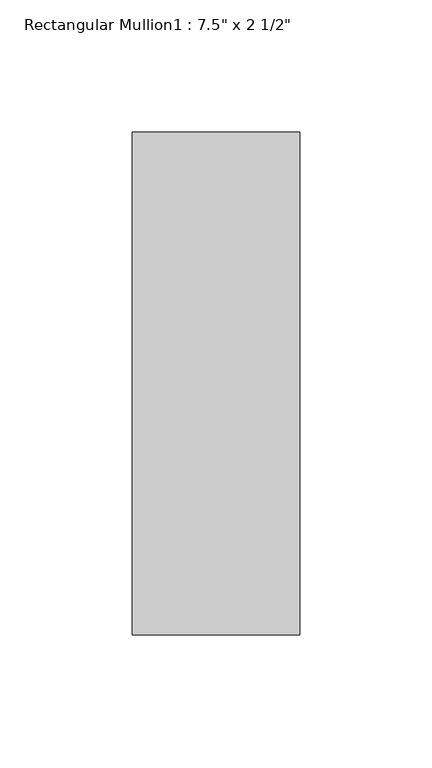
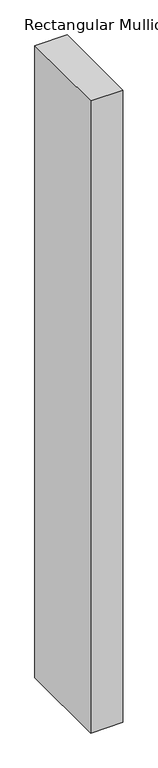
"""IFC4 building model written with IfcOpenShell, lengths in millimetres: member geometry."""

from ifc_helpers import new_model, si_unit, frame, origin, place, context, project, spatial, polyline, outline, extrude, source, transform, mapped, element, save


def member_05d3b57c(model_context):
    return source(origin(), model_context, "Body", "SweptSolid", [
        extrude(outline(polyline([(-63.5, 165.1), (0.0, 165.1), (0.0, -25.4), (-63.5, -25.4), (-63.5, 165.1)])), frame((0.0, 0.0, -1320.8), z_axis=(0.0, 0.0, 1.0), x_axis=(1.0, 0.0, 0.0)), (0.0, 0.0, 1.0), 1320.8),
    ])


if __name__ == "__main__":
    model = new_model("IFC4")
    model_context = context("Model", 3, world=origin())
    ifc_project = project(units=[si_unit("LENGTHUNIT", "METRE", prefix="MILLI")], contexts=[model_context])
    site = spatial("IfcSite", under=ifc_project)
    building = spatial("IfcBuilding", under=site)
    placement = place(None, origin())
    member_shape = member_05d3b57c(model_context)
    element("IfcMember", 1, ObjectType="Rectangular Mullion1 : 7.5\" x 2 1/2\"", at=placement, inside=building, context=model_context, shape_type="MappedRepresentation", body=[
        mapped(member_shape, transform((0.0, 0.0, 0.0), x_axis=(1.0, 0.0, 0.0), y_axis=(0.0, 1.0, 0.0), z_axis=(0.0, 0.0, 1.0))),
    ])
    save(model, "model.ifc")
